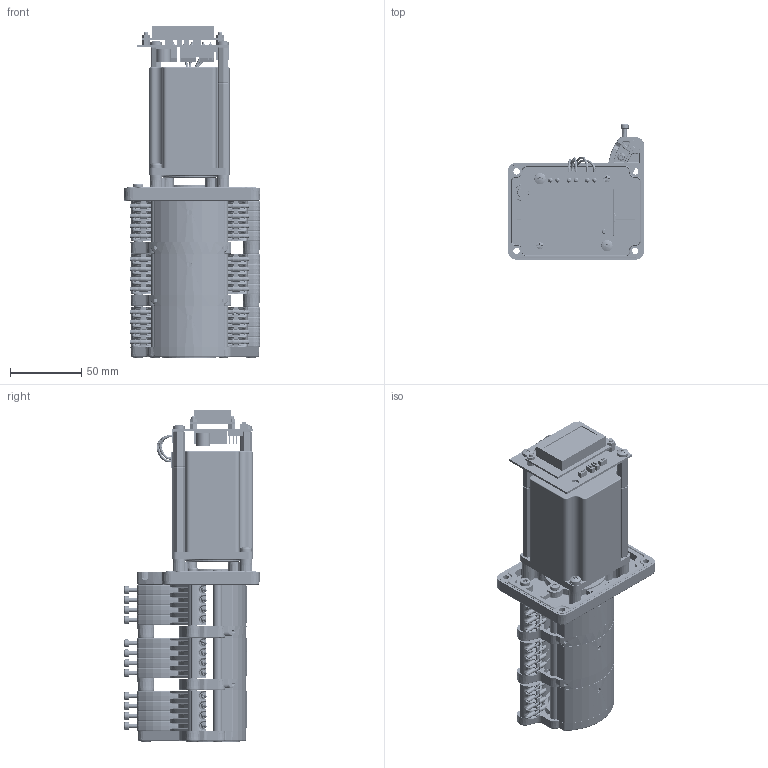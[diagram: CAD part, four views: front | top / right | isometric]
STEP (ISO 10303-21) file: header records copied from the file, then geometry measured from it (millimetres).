
FILE_DESCRIPTION (( 'STEP AP214' ), '1' );
FILE_NAME ('Assy_6K6003_IDs_R00.STEP', '2026-09-24T14:20:55', ( '' ), ( '' ), 'SwSTEP 2.0', 'SolidWorks 2021', '' );
FILE_SCHEMA (( 'AUTOMOTIVE_DESIGN' ));
Length unit declared in the file: millimetre
Products named in the file (1): Assy_6K6003_IDs_R00
Bounding box: 95.89 x 95.23 x 233.6 mm (x, y, z)
Volume: 10497.9 mm3; surface area: 193651.1 mm2
Topology: 34 solids, 35 shells, 7379 faces, 17465 edges, 10339 vertices
Faces by surface type: plane 2560, cylinder 1879, bspline 1357, cone 799, torus 541, sphere 243
Full cylindrical faces by diameter (mm): 1.3 x6, 1.35 x4, 1.6 x4, 1.8 x24, 2.4 x4, 2.5 x1, 2.8 x10, 3 x36, 3.2 x8, 3.4 x2, 4 x4, 4.022 x2, 4.5 x4, 5 x12, 5.5 x12, 6.05 x9, 6.1 x15, 7.5 x4, 8 x2, 8.55 x4, 10 x1, 10.2 x1, 24.168 x1
Entity records: 258787 total; most frequent: CARTESIAN_POINT 94982, ORIENTED_EDGE 33766, DIRECTION 28801, EDGE_CURVE 16883, AXIS2_PLACEMENT_3D 10916, VERTEX_POINT 10175, EDGE_LOOP 8136, FACE_OUTER_BOUND 7640
